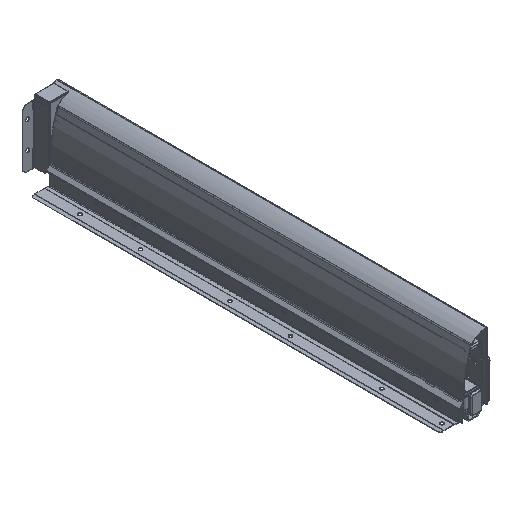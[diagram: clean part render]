
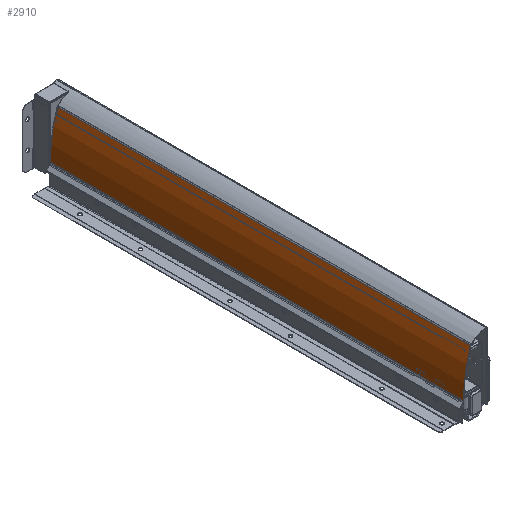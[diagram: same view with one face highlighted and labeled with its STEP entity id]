
A CAD part, isometric view. The second image highlights one B-rep face of the part: STEP entity #2910.
In plain terms, the highlighted cylindrical face has radius 160 mm (diameter 320 mm), a partial arc.
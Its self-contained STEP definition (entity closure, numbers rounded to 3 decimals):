
#2910 = ADVANCED_FACE( '', ( #6753 ), #6754, .T. );
#6753 = FACE_OUTER_BOUND( '', #12496, .T. );
#6754 = CYLINDRICAL_SURFACE( '', #12497, 160. );
#12496 = EDGE_LOOP( '', ( #22372, #22373, #22374, #22375 ) );
#12497 = AXIS2_PLACEMENT_3D( '', #22376, #22377, #22378 );
#22372 = ORIENTED_EDGE( '', *, *, #33769, .F. );
#22373 = ORIENTED_EDGE( '', *, *, #32271, .F. );
#22374 = ORIENTED_EDGE( '', *, *, #33754, .F. );
#22375 = ORIENTED_EDGE( '', *, *, #30830, .T. );
#22376 = CARTESIAN_POINT( '', ( 142.5, -10., 18.574 ) );
#22377 = DIRECTION( '', ( 0., -1., 0. ) );
#22378 = DIRECTION( '', ( 0., 0., 1. ) );
#30830 = EDGE_CURVE( '', #36188, #36185, #36189, .T. );
#32271 = EDGE_CURVE( '', #38725, #38721, #38727, .T. );
#33754 = EDGE_CURVE( '', #36188, #38725, #41037, .T. );
#33769 = EDGE_CURVE( '', #38721, #36185, #41054, .T. );
#36185 = VERTEX_POINT( '', #43986 );
#36188 = VERTEX_POINT( '', #43989 );
#36189 = LINE( '', #43990, #43991 );
#38721 = VERTEX_POINT( '', #47953 );
#38725 = VERTEX_POINT( '', #47958 );
#38727 = LINE( '', #47960, #47961 );
#41037 = CIRCLE( '', #51768, 160. );
#41054 = CIRCLE( '', #51791, 160. );
#43986 = CARTESIAN_POINT( '', ( -9.073, 482., 69.814 ) );
#43989 = CARTESIAN_POINT( '', ( -9.073, -10., 69.814 ) );
#43990 = CARTESIAN_POINT( '', ( -9.073, -10., 69.814 ) );
#43991 = VECTOR( '', #56523, 1000. );
#47953 = CARTESIAN_POINT( '', ( -17.492, 482., 16.97 ) );
#47958 = CARTESIAN_POINT( '', ( -17.492, -10., 16.97 ) );
#47960 = CARTESIAN_POINT( '', ( -17.492, -10., 16.97 ) );
#47961 = VECTOR( '', #58483, 1000. );
#51768 = AXIS2_PLACEMENT_3D( '', #60302, #60303, #60304 );
#51791 = AXIS2_PLACEMENT_3D( '', #60320, #60321, #60322 );
#56523 = DIRECTION( '', ( 0., 1., 0. ) );
#58483 = DIRECTION( '', ( 0., 1., 0. ) );
#60302 = CARTESIAN_POINT( '', ( 142.5, -10., 18.574 ) );
#60303 = DIRECTION( '', ( 0., -1., 0. ) );
#60304 = DIRECTION( '', ( 1., 0., 0. ) );
#60320 = CARTESIAN_POINT( '', ( 142.5, 482., 18.574 ) );
#60321 = DIRECTION( '', ( 0., 1., 0. ) );
#60322 = DIRECTION( '', ( 0., 0., 1. ) );
